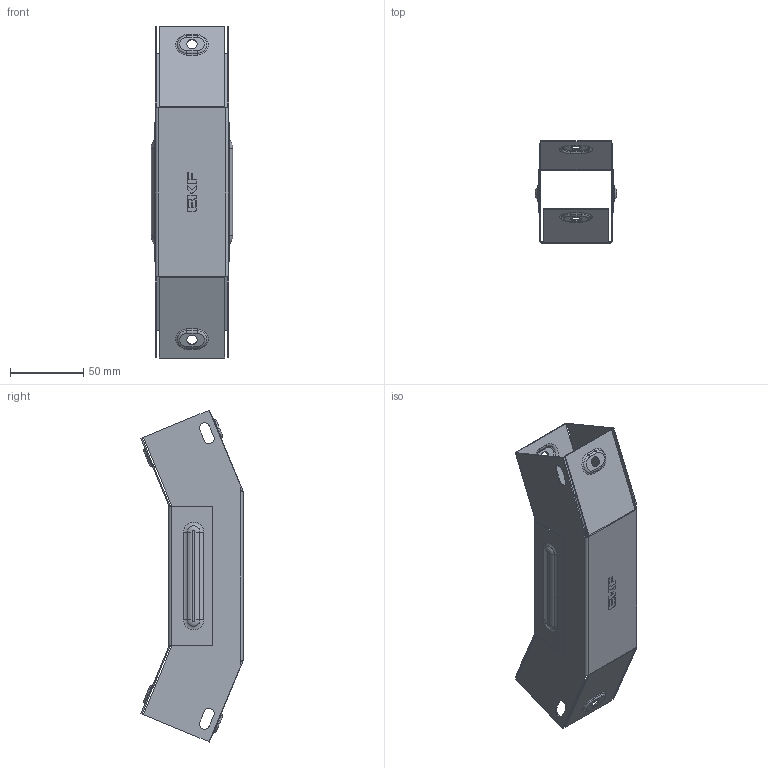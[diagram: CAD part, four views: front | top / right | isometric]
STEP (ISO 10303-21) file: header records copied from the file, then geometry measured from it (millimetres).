
FILE_DESCRIPTION (( 'STEP AP214' ), '1' );
FILE_NAME ('vi455050_捘.STEP', '2019-06-10T08:26:52', ( '砐錪賧瘔蠈錪 Windows' ), ( '' ), 'SwSTEP 2.0', 'SolidWorks 2018', '' );
FILE_SCHEMA (( 'AUTOMOTIVE_DESIGN' ));
Length unit declared in the file: millimetre
Products named in the file (1): vi455050_捘
Bounding box: 55.6 x 69.93 x 227.28 mm (x, y, z)
Volume: 37675.7 mm3; surface area: 95801.5 mm2
Topology: 2 solids, 2 shells, 416 faces, 1056 edges, 672 vertices
Faces by surface type: plane 222, cylinder 112, torus 64, bspline 18
Entity records: 13420 total; most frequent: CARTESIAN_POINT 3164, DIRECTION 2138, ORIENTED_EDGE 2112, EDGE_CURVE 1056, AXIS2_PLACEMENT_3D 719, LINE 700, VECTOR 700, VERTEX_POINT 672
